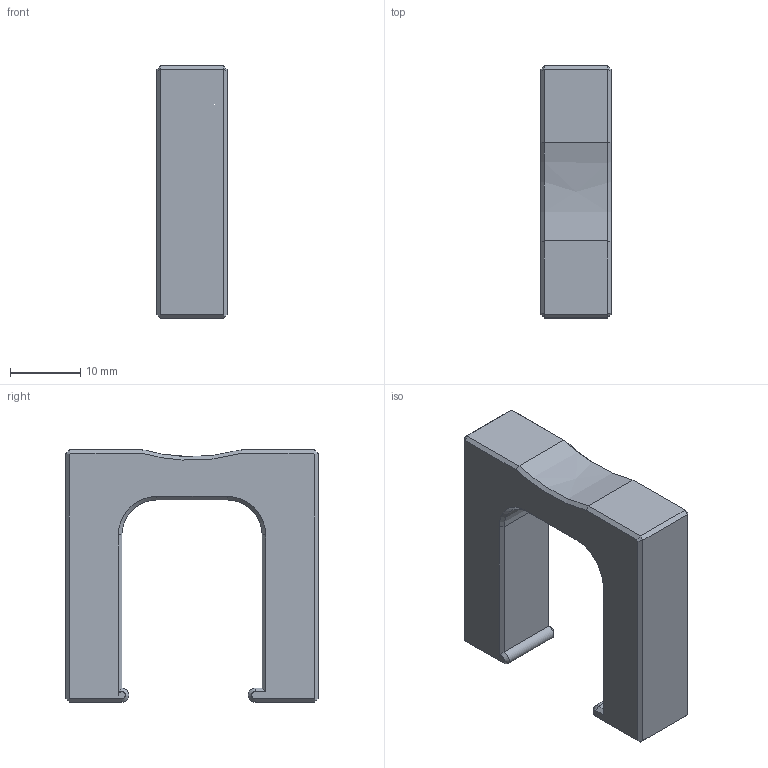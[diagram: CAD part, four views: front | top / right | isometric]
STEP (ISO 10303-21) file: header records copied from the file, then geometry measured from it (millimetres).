
FILE_DESCRIPTION(('CATIA V5 STEP Exchange'),'2;1');
FILE_NAME('D:\_이전 노트북\Cremaker모델링\Cremaker_profile-Metal(4차)-M6(final)\Cable-Cap-3.stp','2020-10-23T05:33:19+00:00',('none'),('none'),'CATIA Version 5 Release 20 GA (IN-10)','CATIA V5 STEP AP203','none');
FILE_SCHEMA(('CONFIG_CONTROL_DESIGN'));
Length unit declared in the file: millimetre
Products named in the file (1): Cable-Cap-3
Bounding box: 10 x 36 x 36 mm (x, y, z)
Volume: 7200.5 mm3; surface area: 3339.3 mm2
Topology: 1 solids, 1 shells, 55 faces, 129 edges, 76 vertices
Faces by surface type: plane 40, cone 8, cylinder 4, bspline 2, extrusion 1
Entity records: 1621 total; most frequent: CARTESIAN_POINT 415, ORIENTED_EDGE 258, DIRECTION 198, EDGE_CURVE 129, VECTOR 82, LINE 81, VERTEX_POINT 76, AXIS2_PLACEMENT_3D 67
